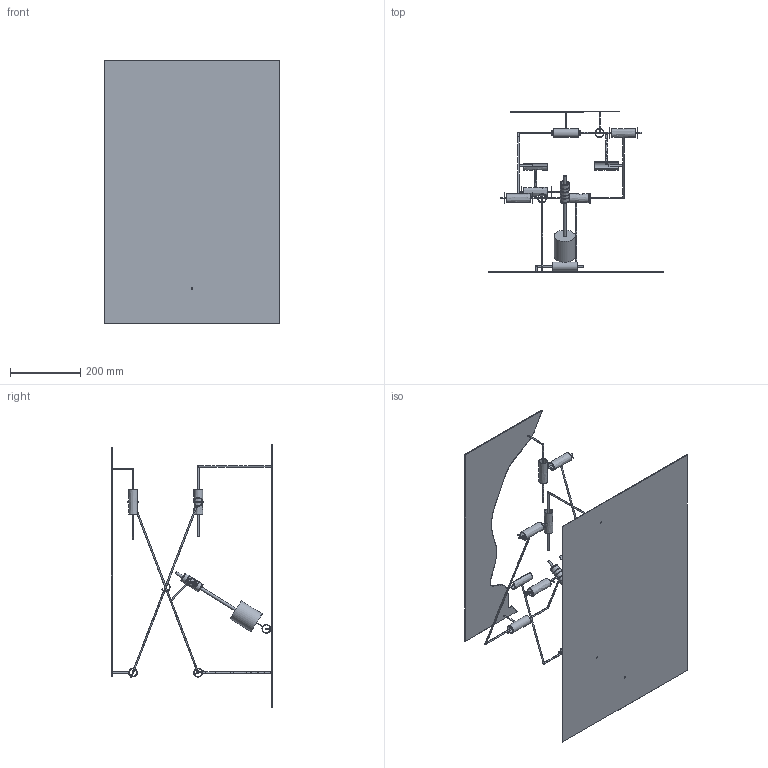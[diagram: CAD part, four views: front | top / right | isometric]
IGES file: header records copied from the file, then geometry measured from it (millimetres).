
Global section: file name: No Iges File Name specified; native system: AutoDesk Inventor R9; preprocessor: AutoDesk Inventor Iges Exporter R9; author: No Author specified; organization: No Organization specified; date: 20070317.021333; units: millimetre
Bounding box: 500 x 458.74 x 750 mm (x, y, z)
Surface area: 1143806.8 mm2 (no closed solid volume)
Topology: 0 solids, 3 shells, 174 faces, 556 edges, 471 vertices
Faces by surface type: plane 92, revolution 77, bspline 5
